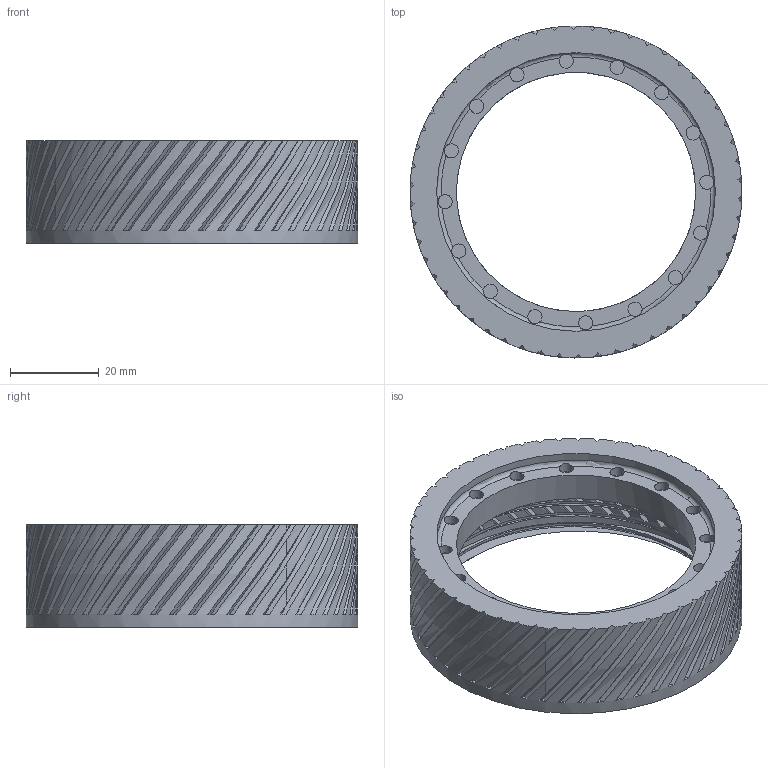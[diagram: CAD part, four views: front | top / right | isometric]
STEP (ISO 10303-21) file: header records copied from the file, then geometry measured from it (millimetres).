
FILE_DESCRIPTION(/* description */ ('STEP AP242','CAx-IF Rec.Pracs.---Representation and Presentation of Product Manufacturing Information (PMI)---4.0---2014-10-13','CAx-IF Rec.Pracs.---3D Tessellated Geometry---0.4---2014-09-14','2;1'),/* implementation_level */ '2;1');
FILE_NAME(/* name */ '64691fa8cac4670533c1f06a',/* time_stamp */ '2023-05-20T19:29:45Z',/* author */ (''),/* organization */ (''),/* preprocessor_version */ 'ST-DEVELOPER v19.4',/* originating_system */ ' ',/* authorisation */ ' ');
FILE_SCHEMA (('AP242_MANAGED_MODEL_BASED_3D_ENGINEERING_MIM_LF { 1 0 10303 442 1 1 4 }'));
Length unit declared in the file: metre
Products named in the file (1): Base 24mm Magnet NoLug
Bounding box: 74.9 x 74.9 x 23.2 mm (x, y, z)
Volume: 29988.9 mm3; surface area: 16283.6 mm2
Topology: 1 solids, 1 shells, 256 faces, 751 edges, 501 vertices
Faces by surface type: bspline 132, plane 95, cylinder 24, cone 4, torus 1
Full cylindrical faces by diameter (mm): 3.2 x16, 54 x1, 62.9 x1, 74.9 x1
Entity records: 14763 total; most frequent: CARTESIAN_POINT 9738, ORIENTED_EDGE 1396, EDGE_CURVE 698, DIRECTION 614, VERTEX_POINT 473, B_SPLINE_CURVE_WITH_KNOTS 329, AXIS2_PLACEMENT_3D 286, EDGE_LOOP 279
